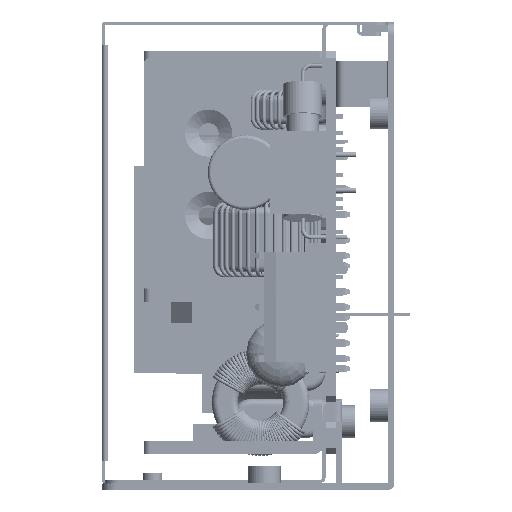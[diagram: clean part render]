
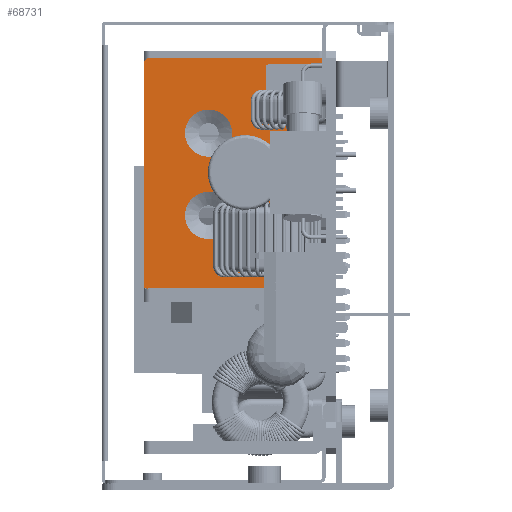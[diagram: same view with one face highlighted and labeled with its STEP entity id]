
A CAD part, left-side view. The second image highlights one B-rep face of the part: STEP entity #68731.
In plain terms, the highlighted planar face has unit normal (-1, 0, 0).
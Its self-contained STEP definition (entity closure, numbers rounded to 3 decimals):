
#67395=DIRECTION('',(0.,0.,1.));
#67396=VECTOR('',#67395,1.764);
#67397=CARTESIAN_POINT('',(22.,0.,-3.764));
#67398=LINE('',#67397,#67396);
#67403=DIRECTION('',(0.,0.,1.));
#67404=VECTOR('',#67403,4.);
#67405=CARTESIAN_POINT('',(22.,0.,-35.5));
#67406=LINE('',#67405,#67404);
#67443=CARTESIAN_POINT('',(22.,18.,-12.6));
#67444=DIRECTION('',(1.,0.,0.));
#67445=DIRECTION('',(0.,1.,0.));
#67446=AXIS2_PLACEMENT_3D('',#67443,#67444,#67445);
#67448=CARTESIAN_POINT('',(22.,18.,-12.6));
#67449=DIRECTION('',(1.,0.,0.));
#67450=DIRECTION('',(0.,-1.,0.));
#67451=AXIS2_PLACEMENT_3D('',#67448,#67449,#67450);
#67453=CARTESIAN_POINT('',(22.,18.,-25.25));
#67454=DIRECTION('',(1.,0.,0.));
#67455=DIRECTION('',(0.,1.,0.));
#67456=AXIS2_PLACEMENT_3D('',#67453,#67454,#67455);
#67458=CARTESIAN_POINT('',(22.,18.,-25.25));
#67459=DIRECTION('',(1.,0.,0.));
#67460=DIRECTION('',(0.,-1.,0.));
#67461=AXIS2_PLACEMENT_3D('',#67458,#67459,#67460);
#67463=CARTESIAN_POINT('',(22.,1.,-2.));
#67464=DIRECTION('',(-1.,0.,0.));
#67465=DIRECTION('',(0.,-1.,0.));
#67466=AXIS2_PLACEMENT_3D('',#67463,#67464,#67465);
#67468=DIRECTION('',(0.,1.,0.));
#67469=VECTOR('',#67468,0.2);
#67470=CARTESIAN_POINT('',(22.,0.,-3.764));
#67471=LINE('',#67470,#67469);
#67472=DIRECTION('',(0.,0.,1.));
#67473=VECTOR('',#67472,1.264);
#67474=CARTESIAN_POINT('',(22.,0.2,-3.764));
#67475=LINE('',#67474,#67473);
#67476=DIRECTION('',(0.,1.,0.));
#67477=VECTOR('',#67476,8.);
#67478=CARTESIAN_POINT('',(22.,0.7,-2.));
#67479=LINE('',#67478,#67477);
#67480=DIRECTION('',(0.,0.,-1.));
#67481=VECTOR('',#67480,3.8);
#67482=CARTESIAN_POINT('',(22.,9.2,-2.5));
#67483=LINE('',#67482,#67481);
#67484=DIRECTION('',(0.,-1.,0.));
#67485=VECTOR('',#67484,4.2);
#67486=CARTESIAN_POINT('',(22.,8.7,-6.8));
#67487=LINE('',#67486,#67485);
#67488=DIRECTION('',(0.,0.,1.));
#67489=VECTOR('',#67488,23.7);
#67490=CARTESIAN_POINT('',(22.,4.5,-30.5));
#67491=LINE('',#67490,#67489);
#67492=DIRECTION('',(0.,1.,0.));
#67493=VECTOR('',#67492,3.5);
#67494=CARTESIAN_POINT('',(22.,1.,-30.5));
#67495=LINE('',#67494,#67493);
#67496=CARTESIAN_POINT('',(22.,1.,-31.5));
#67497=DIRECTION('',(-1.,0.,0.));
#67498=DIRECTION('',(0.,-1.,0.));
#67499=AXIS2_PLACEMENT_3D('',#67496,#67497,#67498);
#67501=CARTESIAN_POINT('',(22.,1.,-35.5));
#67502=DIRECTION('',(-1.,0.,0.));
#67503=DIRECTION('',(0.,0.,-1.));
#67504=AXIS2_PLACEMENT_3D('',#67501,#67502,#67503);
#67506=DIRECTION('',(0.,1.,0.));
#67507=VECTOR('',#67506,16.);
#67508=CARTESIAN_POINT('',(22.,12.,-36.5));
#67509=LINE('',#67508,#67507);
#67510=CARTESIAN_POINT('',(22.,27.,-2.));
#67511=DIRECTION('',(-1.,0.,0.));
#67512=DIRECTION('',(0.,0.,1.));
#67513=AXIS2_PLACEMENT_3D('',#67510,#67511,#67512);
#67515=DIRECTION('',(0.,1.,0.));
#67516=VECTOR('',#67515,26.);
#67517=CARTESIAN_POINT('',(22.,1.,-1.));
#67518=LINE('',#67517,#67516);
#67697=CARTESIAN_POINT('',(22.,0.7,-2.5));
#67698=DIRECTION('',(1.,0.,0.));
#67699=DIRECTION('',(0.,0.,1.));
#67700=AXIS2_PLACEMENT_3D('',#67697,#67698,#67699);
#67710=CARTESIAN_POINT('',(22.,8.7,-2.5));
#67711=DIRECTION('',(1.,0.,0.));
#67712=DIRECTION('',(0.,1.,0.));
#67713=AXIS2_PLACEMENT_3D('',#67710,#67711,#67712);
#67723=CARTESIAN_POINT('',(22.,8.7,-6.3));
#67724=DIRECTION('',(1.,0.,0.));
#67725=DIRECTION('',(0.,0.,-1.));
#67726=AXIS2_PLACEMENT_3D('',#67723,#67724,#67725);
#68110=DIRECTION('',(0.,0.,1.));
#68111=VECTOR('',#68110,34.5);
#68112=CARTESIAN_POINT('',(22.,28.,-36.5));
#68113=LINE('',#68112,#68111);
#68263=DIRECTION('',(0.,-1.,0.));
#68264=VECTOR('',#68263,11.);
#68265=CARTESIAN_POINT('',(22.,12.,-36.5));
#68266=LINE('',#68265,#68264);
#68320=CARTESIAN_POINT('',(22.,21.628,-12.6));
#68321=CARTESIAN_POINT('',(22.,14.372,-12.6));
#68322=VERTEX_POINT('',#68320);
#68323=VERTEX_POINT('',#68321);
#68332=CARTESIAN_POINT('',(22.,21.628,-25.25));
#68333=CARTESIAN_POINT('',(22.,14.372,-25.25));
#68334=VERTEX_POINT('',#68332);
#68335=VERTEX_POINT('',#68333);
#68344=CARTESIAN_POINT('',(22.,4.5,-30.5));
#68345=VERTEX_POINT('',#68344);
#68358=CARTESIAN_POINT('',(22.,0.,-31.5));
#68359=CARTESIAN_POINT('',(22.,1.,-30.5));
#68360=VERTEX_POINT('',#68358);
#68361=VERTEX_POINT('',#68359);
#68366=CARTESIAN_POINT('',(22.,28.,-36.5));
#68367=VERTEX_POINT('',#68366);
#68456=CARTESIAN_POINT('',(22.,12.,-36.5));
#68458=VERTEX_POINT('',#68456);
#68486=CARTESIAN_POINT('',(22.,0.2,-3.764));
#68488=VERTEX_POINT('',#68486);
#68490=CARTESIAN_POINT('',(22.,0.,-3.764));
#68492=VERTEX_POINT('',#68490);
#68495=CARTESIAN_POINT('',(22.,4.5,-6.8));
#68497=VERTEX_POINT('',#68495);
#68505=CARTESIAN_POINT('',(22.,0.2,-2.5));
#68507=VERTEX_POINT('',#68505);
#68510=CARTESIAN_POINT('',(22.,0.7,-2.));
#68511=VERTEX_POINT('',#68510);
#68529=CARTESIAN_POINT('',(22.,9.2,-6.3));
#68531=VERTEX_POINT('',#68529);
#68534=CARTESIAN_POINT('',(22.,8.7,-6.8));
#68535=VERTEX_POINT('',#68534);
#68537=CARTESIAN_POINT('',(22.,8.7,-2.));
#68539=VERTEX_POINT('',#68537);
#68542=CARTESIAN_POINT('',(22.,9.2,-2.5));
#68543=VERTEX_POINT('',#68542);
#68544=CARTESIAN_POINT('',(22.,0.,-2.));
#68545=CARTESIAN_POINT('',(22.,1.,-1.));
#68546=VERTEX_POINT('',#68544);
#68547=VERTEX_POINT('',#68545);
#68556=CARTESIAN_POINT('',(22.,27.,-1.));
#68557=VERTEX_POINT('',#68556);
#68558=CARTESIAN_POINT('',(22.,28.,-2.));
#68559=VERTEX_POINT('',#68558);
#68576=CARTESIAN_POINT('',(22.,1.,-36.5));
#68577=VERTEX_POINT('',#68576);
#68578=CARTESIAN_POINT('',(22.,0.,-35.5));
#68579=VERTEX_POINT('',#68578);
#68675=CARTESIAN_POINT('',(22.,0.,-36.5));
#68676=DIRECTION('',(-1.,0.,0.));
#68677=DIRECTION('',(0.,0.,1.));
#68678=AXIS2_PLACEMENT_3D('',#68675,#68676,#68677);
#68679=PLANE('',#68678);
#68680=ORIENTED_EDGE('',*,*,#68641,.F.);
#68681=ORIENTED_EDGE('',*,*,#68611,.F.);
#68683=ORIENTED_EDGE('',*,*,#68682,.T.);
#68685=ORIENTED_EDGE('',*,*,#68684,.T.);
#68687=ORIENTED_EDGE('',*,*,#68686,.F.);
#68689=ORIENTED_EDGE('',*,*,#68688,.T.);
#68691=ORIENTED_EDGE('',*,*,#68690,.F.);
#68693=ORIENTED_EDGE('',*,*,#68692,.T.);
#68695=ORIENTED_EDGE('',*,*,#68694,.F.);
#68697=ORIENTED_EDGE('',*,*,#68696,.T.);
#68699=ORIENTED_EDGE('',*,*,#68698,.F.);
#68701=ORIENTED_EDGE('',*,*,#68700,.F.);
#68703=ORIENTED_EDGE('',*,*,#68702,.F.);
#68704=ORIENTED_EDGE('',*,*,#68623,.F.);
#68706=ORIENTED_EDGE('',*,*,#68705,.F.);
#68708=ORIENTED_EDGE('',*,*,#68707,.F.);
#68710=ORIENTED_EDGE('',*,*,#68709,.T.);
#68712=ORIENTED_EDGE('',*,*,#68711,.T.);
#68714=ORIENTED_EDGE('',*,*,#68713,.F.);
#68716=ORIENTED_EDGE('',*,*,#68715,.F.);
#68717=EDGE_LOOP('',(#68680,#68681,#68683,#68685,#68687,#68689,#68691,#68693,
#68695,#68697,#68699,#68701,#68703,#68704,#68706,#68708,#68710,#68712,#68714,
#68716));
#68718=FACE_OUTER_BOUND('',#68717,.F.);
#68720=ORIENTED_EDGE('',*,*,#68719,.F.);
#68722=ORIENTED_EDGE('',*,*,#68721,.F.);
#68723=EDGE_LOOP('',(#68720,#68722));
#68724=FACE_BOUND('',#68723,.F.);
#68726=ORIENTED_EDGE('',*,*,#68725,.F.);
#68728=ORIENTED_EDGE('',*,*,#68727,.F.);
#68729=EDGE_LOOP('',(#68726,#68728));
#68730=FACE_BOUND('',#68729,.F.);
#67447=CIRCLE('',#67446,3.628);
#67452=CIRCLE('',#67451,3.628);
#67457=CIRCLE('',#67456,3.628);
#67462=CIRCLE('',#67461,3.628);
#67467=CIRCLE('',#67466,1.);
#67500=CIRCLE('',#67499,1.);
#67505=CIRCLE('',#67504,1.);
#67514=CIRCLE('',#67513,1.);
#67701=CIRCLE('',#67700,0.5);
#67714=CIRCLE('',#67713,0.5);
#67727=CIRCLE('',#67726,0.5);
#68611=EDGE_CURVE('',#68492,#68546,#67398,.T.);
#68623=EDGE_CURVE('',#68579,#68360,#67406,.T.);
#68641=EDGE_CURVE('',#68546,#68547,#67467,.T.);
#68682=EDGE_CURVE('',#68492,#68488,#67471,.T.);
#68684=EDGE_CURVE('',#68488,#68507,#67475,.T.);
#68686=EDGE_CURVE('',#68511,#68507,#67701,.T.);
#68688=EDGE_CURVE('',#68511,#68539,#67479,.T.);
#68690=EDGE_CURVE('',#68543,#68539,#67714,.T.);
#68692=EDGE_CURVE('',#68543,#68531,#67483,.T.);
#68694=EDGE_CURVE('',#68535,#68531,#67727,.T.);
#68696=EDGE_CURVE('',#68535,#68497,#67487,.T.);
#68698=EDGE_CURVE('',#68345,#68497,#67491,.T.);
#68700=EDGE_CURVE('',#68361,#68345,#67495,.T.);
#68702=EDGE_CURVE('',#68360,#68361,#67500,.T.);
#68705=EDGE_CURVE('',#68577,#68579,#67505,.T.);
#68707=EDGE_CURVE('',#68458,#68577,#68266,.T.);
#68709=EDGE_CURVE('',#68458,#68367,#67509,.T.);
#68711=EDGE_CURVE('',#68367,#68559,#68113,.T.);
#68713=EDGE_CURVE('',#68557,#68559,#67514,.T.);
#68715=EDGE_CURVE('',#68547,#68557,#67518,.T.);
#68719=EDGE_CURVE('',#68322,#68323,#67447,.T.);
#68721=EDGE_CURVE('',#68323,#68322,#67452,.T.);
#68725=EDGE_CURVE('',#68334,#68335,#67457,.T.);
#68727=EDGE_CURVE('',#68335,#68334,#67462,.T.);
#68731=ADVANCED_FACE('',(#68718,#68724,#68730),#68679,.T.);
